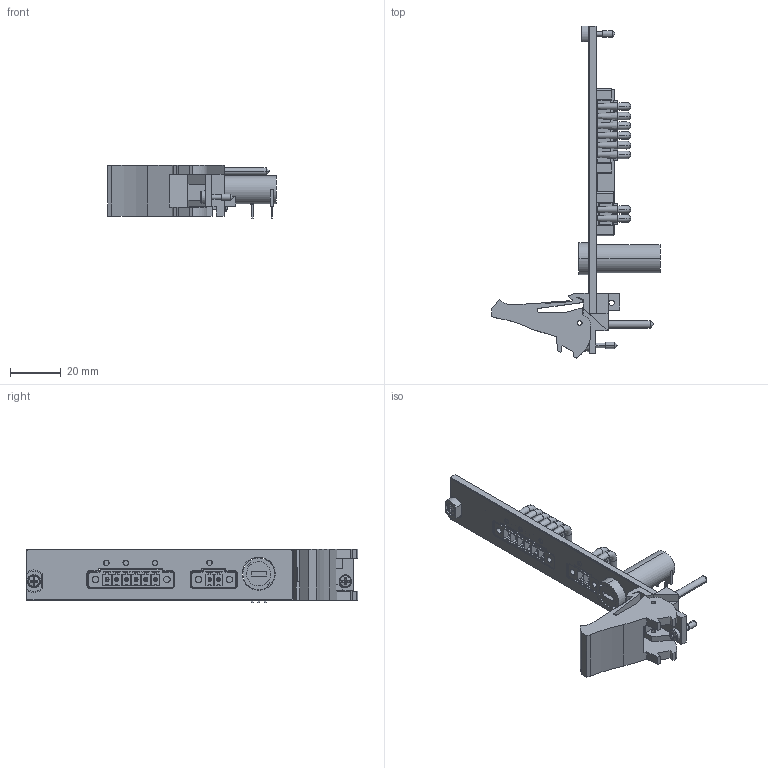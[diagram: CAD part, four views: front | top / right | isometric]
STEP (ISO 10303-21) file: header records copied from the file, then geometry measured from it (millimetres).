
FILE_DESCRIPTION((''),'2;1');
FILE_NAME('PRT0001','2009-12-28T',('jjorden'),(''),'PRO/ENGINEER BY PARAMETRIC TECHNOLOGY CORPORATION, 2006080','PRO/ENGINEER BY PARAMETRIC TECHNOLOGY CORPORATION, 2006080','');
FILE_SCHEMA(('CONFIG_CONTROL_DESIGN'));
Length unit declared in the file: inch
Products named in the file (1): PRT0001
Bounding box: 66.29 x 130.5 x 20.98 mm (x, y, z)
Volume: 19084 mm3; surface area: 18929.4 mm2
Topology: 12 solids, 13 shells, 1409 faces, 3528 edges, 2228 vertices
Faces by surface type: plane 965, cylinder 364, cone 48, torus 24, sphere 4, bspline 4
Entity records: 42449 total; most frequent: CARTESIAN_POINT 8421, ORIENTED_EDGE 7016, DIRECTION 6990, EDGE_CURVE 3520, VECTOR 2508, LINE 2508, VERTEX_POINT 2247, AXIS2_PLACEMENT_3D 2241
